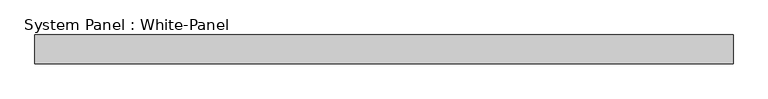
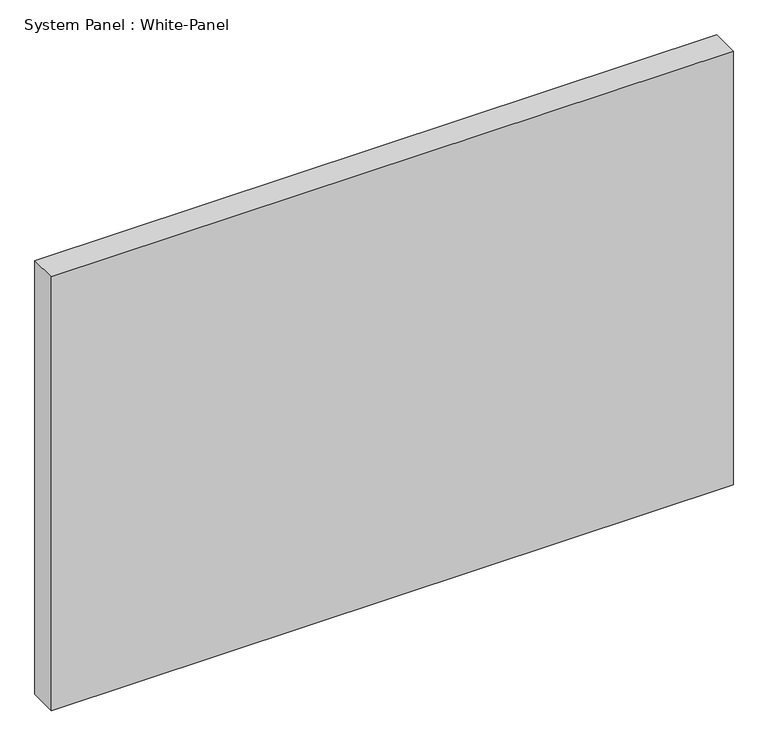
"""IFC4 building model written with IfcOpenShell, lengths in millimetres: plate geometry, System Panel : White-Panel."""

from ifc_helpers import new_model, si_unit, origin, origin_with_axes, place, context, project, spatial, polyline, outline, extrude, source, transform, mapped, element, save


def system_panel_white_panel_ff540c20(model_context):
    return source(origin(), model_context, "Body", "SweptSolid", [
        extrude(outline(polyline([(725.0, -10.5), (-725.0, -10.5), (-725.0, 49.5), (725.0, 49.5), (725.0, -10.5)])), origin_with_axes(), (0.0, 0.0, 1.0), 975.0),
    ])


if __name__ == "__main__":
    model = new_model("IFC4")
    model_context = context("Model", 3, world=origin())
    ifc_project = project(units=[si_unit("LENGTHUNIT", "METRE", prefix="MILLI")], contexts=[model_context])
    site = spatial("IfcSite", under=ifc_project)
    building = spatial("IfcBuilding", under=site)
    placement = place(None, origin())
    system_panel_white_panel_shape = system_panel_white_panel_ff540c20(model_context)
    element("IfcPlate", 1, ObjectType="System Panel : White-Panel", at=placement, inside=building, context=model_context, shape_type="MappedRepresentation", body=[
        mapped(system_panel_white_panel_shape, transform((0.0, 0.0, 0.0), x_axis=(1.0, 0.0, 0.0), y_axis=(0.0, 1.0, 0.0), z_axis=(0.0, 0.0, 1.0))),
    ])
    save(model, "model.ifc")
